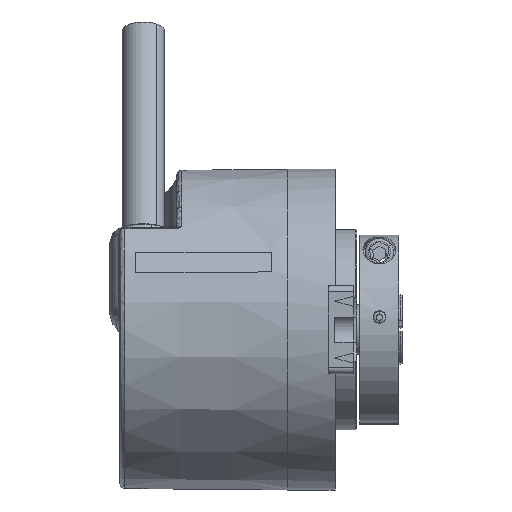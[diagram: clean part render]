
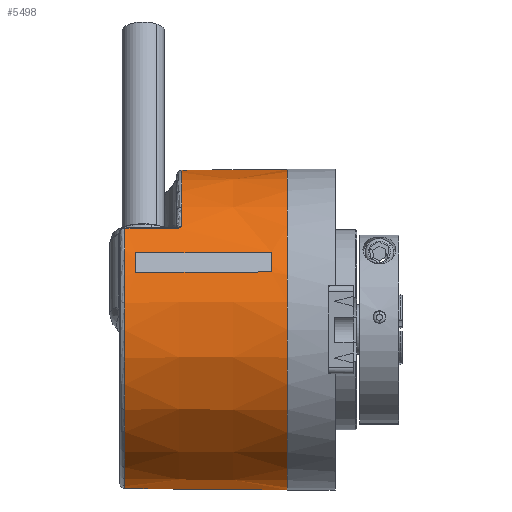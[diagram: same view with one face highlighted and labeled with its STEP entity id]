
A CAD part, front view. The second image highlights one B-rep face of the part: STEP entity #5498.
In plain terms, the highlighted conical face has half-angle 0.5 degrees and reference radius 25.4 mm.
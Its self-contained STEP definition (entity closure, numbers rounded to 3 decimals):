
#5416 = EDGE_CURVE ( 'NONE', #5551, #5599, #11090, .T. ) ;
#5421 = EDGE_CURVE ( 'NONE', #10161, #10045, #9393, .T. ) ;
#5493 = EDGE_CURVE ( 'NONE', #5551, #5494, #11411, .T. ) ;
#5494 = VERTEX_POINT ( 'NONE', #11410 ) ;
#5498 = ADVANCED_FACE ( 'NONE', ( #11473, #11472 ), #11584, .T. ) ;
#5499 = ORIENTED_EDGE ( 'NONE', *, *, #10165, .F. ) ;
#5500 = ORIENTED_EDGE ( 'NONE', *, *, #10012, .T. ) ;
#5506 = EDGE_LOOP ( 'NONE', ( #5499, #5500, #5539, #5525, #5527, #5528, #5529 ) ) ;
#5524 = VERTEX_POINT ( 'NONE', #11510 ) ;
#5525 = ORIENTED_EDGE ( 'NONE', *, *, #5526, .T. ) ;
#5526 = EDGE_CURVE ( 'NONE', #5524, #10279, #11601, .T. ) ;
#5527 = ORIENTED_EDGE ( 'NONE', *, *, #10095, .T. ) ;
#5528 = ORIENTED_EDGE ( 'NONE', *, *, #10047, .T. ) ;
#5529 = ORIENTED_EDGE ( 'NONE', *, *, #5421, .F. ) ;
#5539 = ORIENTED_EDGE ( 'NONE', *, *, #5540, .T. ) ;
#5540 = EDGE_CURVE ( 'NONE', #10013, #5524, #11652, .T. ) ;
#5547 = ORIENTED_EDGE ( 'NONE', *, *, #5548, .F. ) ;
#5548 = EDGE_CURVE ( 'NONE', #5494, #5568, #11606, .T. ) ;
#5551 = VERTEX_POINT ( 'NONE', #11668 ) ;
#5557 = EDGE_LOOP ( 'NONE', ( #5558, #5559, #5560, #5547 ) ) ;
#5558 = ORIENTED_EDGE ( 'NONE', *, *, #5493, .F. ) ;
#5559 = ORIENTED_EDGE ( 'NONE', *, *, #5416, .T. ) ;
#5560 = ORIENTED_EDGE ( 'NONE', *, *, #5570, .F. ) ;
#5568 = VERTEX_POINT ( 'NONE', #11688 ) ;
#5570 = EDGE_CURVE ( 'NONE', #5568, #5599, #11649, .T. ) ;
#5599 = VERTEX_POINT ( 'NONE', #11780 ) ;
#7263 = CARTESIAN_POINT ( 'NONE',  ( -11.207, 0., 0. ) ) ;
#7264 = AXIS2_PLACEMENT_3D ( 'NONE', #7263, #7419, #7420 ) ;
#7419 = DIRECTION ( 'NONE',  ( 1., 0., 0. ) ) ;
#7420 = DIRECTION ( 'NONE',  ( 0., 0., 1. ) ) ;
#7437 = CIRCLE ( 'NONE', #7264, 25.254 ) ;
#7511 = CARTESIAN_POINT ( 'NONE',  ( 5.5, 0., -25.4 ) ) ;
#7543 = CARTESIAN_POINT ( 'NONE',  ( -20.207, 0., -25.176 ) ) ;
#7544 = DIRECTION ( 'NONE',  ( 1., 0., -0.009 ) ) ;
#7545 = VECTOR ( 'NONE', #7544, 1000. ) ;
#7546 = CARTESIAN_POINT ( 'NONE',  ( 5.5, 0., -25.4 ) ) ;
#7547 = LINE ( 'NONE', #7546, #7545 ) ;
#7565 = CARTESIAN_POINT ( 'NONE',  ( -11.207, -19.272, 16.321 ) ) ;
#7781 = CARTESIAN_POINT ( 'NONE',  ( -20.207, 0., 0. ) ) ;
#7800 = DIRECTION ( 'NONE',  ( 0., 0., -1. ) ) ;
#7801 = DIRECTION ( 'NONE',  ( 1., 0., 0. ) ) ;
#7802 = AXIS2_PLACEMENT_3D ( 'NONE', #7781, #7801, #7800 ) ;
#7803 = CIRCLE ( 'NONE', #7802, 25.176 ) ;
#7937 = LINE ( 'NONE', #7946, #7945 ) ;
#7939 = CARTESIAN_POINT ( 'NONE',  ( 5.5, 0., 25.4 ) ) ;
#7944 = DIRECTION ( 'NONE',  ( 1., 0., 0.009 ) ) ;
#7945 = VECTOR ( 'NONE', #7944, 1000. ) ;
#7946 = CARTESIAN_POINT ( 'NONE',  ( 5.5, 0., 25.4 ) ) ;
#8040 = CARTESIAN_POINT ( 'NONE',  ( -11.207, 0., 25.254 ) ) ;
#8510 = CARTESIAN_POINT ( 'NONE',  ( -20.207, -19.395, 16.051 ) ) ;
#9388 = DIRECTION ( 'NONE',  ( 0., 0., -1. ) ) ;
#9392 = AXIS2_PLACEMENT_3D ( 'NONE', #9524, #9523, #9388 ) ;
#9393 = CIRCLE ( 'NONE', #9392, 25.4 ) ;
#9523 = DIRECTION ( 'NONE',  ( 1., 0., 0. ) ) ;
#9524 = CARTESIAN_POINT ( 'NONE',  ( 5.5, 0., 0. ) ) ;
#10012 = EDGE_CURVE ( 'NONE', #10181, #10013, #7437, .T. ) ;
#10013 = VERTEX_POINT ( 'NONE', #7565 ) ;
#10045 = VERTEX_POINT ( 'NONE', #7511 ) ;
#10047 = EDGE_CURVE ( 'NONE', #10048, #10045, #7547, .T. ) ;
#10048 = VERTEX_POINT ( 'NONE', #7543 ) ;
#10095 = EDGE_CURVE ( 'NONE', #10279, #10048, #7803, .T. ) ;
#10161 = VERTEX_POINT ( 'NONE', #7939 ) ;
#10165 = EDGE_CURVE ( 'NONE', #10181, #10161, #7937, .T. ) ;
#10181 = VERTEX_POINT ( 'NONE', #8040 ) ;
#10279 = VERTEX_POINT ( 'NONE', #8510 ) ;
#11086 = DIRECTION ( 'NONE',  ( 0., 0., -1. ) ) ;
#11087 = DIRECTION ( 'NONE',  ( -1., 0., 0. ) ) ;
#11088 = CARTESIAN_POINT ( 'NONE',  ( -18.5, 0., 0. ) ) ;
#11089 = AXIS2_PLACEMENT_3D ( 'NONE', #11088, #11087, #11086 ) ;
#11090 = CIRCLE ( 'NONE', #11089, 25.191 ) ;
#11399 = CARTESIAN_POINT ( 'NONE',  ( 3., -23.674, 9.144 ) ) ;
#11400 = CARTESIAN_POINT ( 'NONE',  ( -3.271, -23.623, 9.123 ) ) ;
#11401 = CARTESIAN_POINT ( 'NONE',  ( -9.541, -23.573, 9.101 ) ) ;
#11402 = CARTESIAN_POINT ( 'NONE',  ( -15.812, -23.522, 9.08 ) ) ;
#11403 = CARTESIAN_POINT ( 'NONE',  ( -16.708, -23.515, 9.077 ) ) ;
#11404 = CARTESIAN_POINT ( 'NONE',  ( -17.604, -23.508, 9.074 ) ) ;
#11405 = CARTESIAN_POINT ( 'NONE',  ( -18.5, -23.501, 9.071 ) ) ;
#11410 = CARTESIAN_POINT ( 'NONE',  ( 3., -23.674, 9.144 ) ) ;
#11411 = B_SPLINE_CURVE_WITH_KNOTS ( 'NONE', 3,
 ( #11405, #11404, #11403, #11402, #11401, #11400, #11399 ),
 .UNSPECIFIED., .F., .F.,
 ( 4, 3, 4 ),
 ( 0.019, 0.022, 0.041 ),
 .UNSPECIFIED. ) ;
#11472 = FACE_BOUND ( 'NONE', #5557, .T. ) ;
#11473 = FACE_OUTER_BOUND ( 'NONE', #5506, .T. ) ;
#11510 = CARTESIAN_POINT ( 'NONE',  ( -11.918, -19.463, 16.083 ) ) ;
#11522 = DIRECTION ( 'NONE',  ( 0., 0., -1. ) ) ;
#11523 = DIRECTION ( 'NONE',  ( 1., 0., 0. ) ) ;
#11584 = CONICAL_SURFACE ( 'NONE', #11586, 25.4, 0.009 ) ;
#11585 = CARTESIAN_POINT ( 'NONE',  ( 5.5, 0., 0. ) ) ;
#11586 = AXIS2_PLACEMENT_3D ( 'NONE', #11585, #11523, #11522 ) ;
#11601 = B_SPLINE_CURVE_WITH_KNOTS ( 'NONE', 3,
 ( #11644, #11650, #11632, #11631, #11695, #11694, #11673, #11686, #11685, #11654 ),
 .UNSPECIFIED., .F., .F.,
 ( 4, 3, 3, 4 ),
 ( 0., 0., 0.002, 0.008 ),
 .UNSPECIFIED. ) ;
#11602 = DIRECTION ( 'NONE',  ( 0., 0., -1. ) ) ;
#11603 = DIRECTION ( 'NONE',  ( -1., 0., 0. ) ) ;
#11604 = CARTESIAN_POINT ( 'NONE',  ( 3., 0., 0. ) ) ;
#11605 = AXIS2_PLACEMENT_3D ( 'NONE', #11604, #11603, #11602 ) ;
#11606 = CIRCLE ( 'NONE', #11605, 25.378 ) ;
#11624 = CARTESIAN_POINT ( 'NONE',  ( -18.5, -22.055, 12.172 ) ) ;
#11625 = CARTESIAN_POINT ( 'NONE',  ( -17.603, -22.061, 12.176 ) ) ;
#11626 = CARTESIAN_POINT ( 'NONE',  ( -16.707, -22.068, 12.179 ) ) ;
#11627 = CARTESIAN_POINT ( 'NONE',  ( -15.81, -22.075, 12.183 ) ) ;
#11628 = CARTESIAN_POINT ( 'NONE',  ( -9.54, -22.124, 12.208 ) ) ;
#11629 = CARTESIAN_POINT ( 'NONE',  ( -3.27, -22.173, 12.232 ) ) ;
#11630 = CARTESIAN_POINT ( 'NONE',  ( 3., -22.222, 12.257 ) ) ;
#11631 = CARTESIAN_POINT ( 'NONE',  ( -12.318, -19.46, 16.081 ) ) ;
#11632 = CARTESIAN_POINT ( 'NONE',  ( -12.185, -19.461, 16.082 ) ) ;
#11635 = CARTESIAN_POINT ( 'NONE',  ( -11.918, -19.463, 16.083 ) ) ;
#11636 = CARTESIAN_POINT ( 'NONE',  ( -11.785, -19.464, 16.083 ) ) ;
#11637 = CARTESIAN_POINT ( 'NONE',  ( -11.656, -19.442, 16.111 ) ) ;
#11638 = CARTESIAN_POINT ( 'NONE',  ( -11.418, -19.373, 16.198 ) ) ;
#11639 = CARTESIAN_POINT ( 'NONE',  ( -11.207, -19.272, 16.321 ) ) ;
#11644 = CARTESIAN_POINT ( 'NONE',  ( -11.918, -19.463, 16.083 ) ) ;
#11649 = B_SPLINE_CURVE_WITH_KNOTS ( 'NONE', 3,
 ( #11630, #11629, #11628, #11627, #11626, #11625, #11624 ),
 .UNSPECIFIED., .F., .F.,
 ( 4, 3, 4 ),
 ( 0.003, 0.022, 0.025 ),
 .UNSPECIFIED. ) ;
#11650 = CARTESIAN_POINT ( 'NONE',  ( -12.052, -19.462, 16.082 ) ) ;
#11652 = B_SPLINE_CURVE_WITH_KNOTS ( 'NONE', 3,
 ( #11639, #11674, #11638, #11637, #11636, #11635 ),
 .UNSPECIFIED., .F., .F.,
 ( 4, 2, 4 ),
 ( 0., 0., 0.001 ),
 .UNSPECIFIED. ) ;
#11654 = CARTESIAN_POINT ( 'NONE',  ( -20.207, -19.395, 16.051 ) ) ;
#11668 = CARTESIAN_POINT ( 'NONE',  ( -18.5, -23.501, 9.071 ) ) ;
#11673 = CARTESIAN_POINT ( 'NONE',  ( -13.918, -19.447, 16.075 ) ) ;
#11674 = CARTESIAN_POINT ( 'NONE',  ( -11.31, -19.325, 16.257 ) ) ;
#11685 = CARTESIAN_POINT ( 'NONE',  ( -18.111, -19.412, 16.059 ) ) ;
#11686 = CARTESIAN_POINT ( 'NONE',  ( -16.015, -19.43, 16.067 ) ) ;
#11688 = CARTESIAN_POINT ( 'NONE',  ( 3., -22.222, 12.257 ) ) ;
#11694 = CARTESIAN_POINT ( 'NONE',  ( -13.385, -19.451, 16.077 ) ) ;
#11695 = CARTESIAN_POINT ( 'NONE',  ( -12.852, -19.455, 16.079 ) ) ;
#11780 = CARTESIAN_POINT ( 'NONE',  ( -18.5, -22.055, 12.172 ) ) ;
